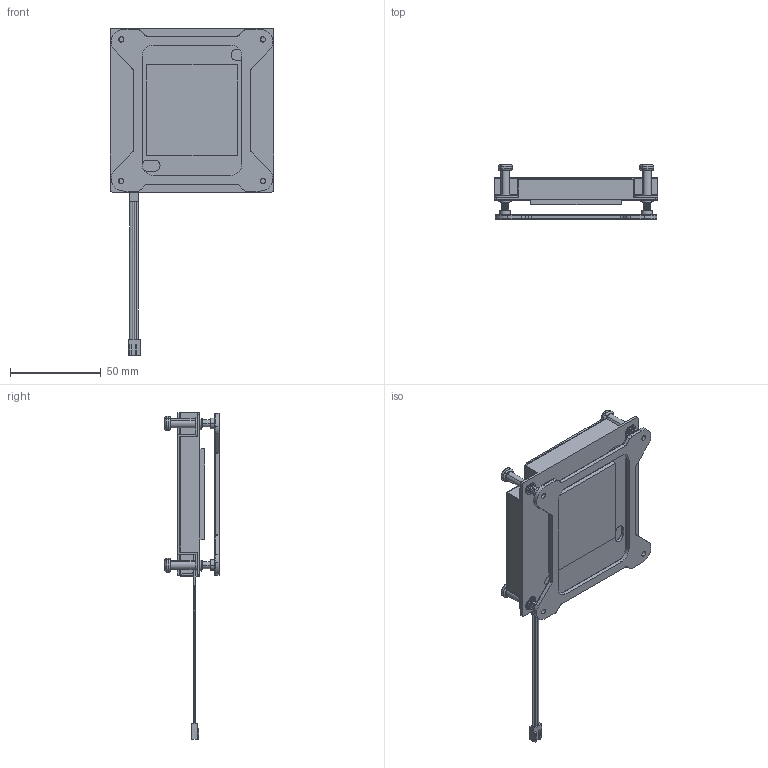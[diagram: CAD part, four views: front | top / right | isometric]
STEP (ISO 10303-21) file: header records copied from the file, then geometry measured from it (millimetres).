
FILE_DESCRIPTION((''),'2;1');
FILE_NAME('RGD3118-004_ME_ASM','2022-10-11T',('User'),(''),'PRO/ENGINEER BY PARAMETRIC TECHNOLOGY CORPORATION, 2017170','PRO/ENGINEER BY PARAMETRIC TECHNOLOGY CORPORATION, 2017170','');
FILE_SCHEMA(('CONFIG_CONTROL_DESIGN'));
Length unit declared in the file: millimetre
Products named in the file (22): 201706038-002-FANCOVER-MP_15_1_; SINK_BASE_1_1_4; RFQ__71070403010E__LGA1156_JAC7_ASM; JAS190C-1_2_1-1_1_1_4; E-RING_1_1_4; SCREW_ASSY_ASM_1_ASM_1_ASM_6_ASM; 4PIN_2543_CABLE__1_1_4; 4PIN_1_1_1_4; 4PIN_1_2_1_4; 4PIN_1_3_1_4; 4PIN_1_4_1_4; 4PIN_1_ASM_1_ASM_4_ASM; 1_1_1_4; RG3118A-A_ASM_1_ASM_1_ASM_1_ASM; 1_ASM_1_ASM_1_ASM; 850-BP-1700-5_1; ADHESIVE_1; MYLAR_1; 850-BP1700-5_ASM_1_ASM; RGD3118-004_ME_ASM_1_ASM; LABEL_RGE-ST002-1; RGD3118-004_ME_ASM
Assembly tree (24 placements, depth 6):
  RGD3118-004_ME_ASM
    RGD3118-004_ME_ASM_1_ASM
      1_ASM_1_ASM_1_ASM
        RG3118A-A_ASM_1_ASM_1_ASM_1_ASM
          RFQ__71070403010E__LGA1156_JAC7_ASM
            201706038-002-FANCOVER-MP_15_1_
            SINK_BASE_1_1_4
          SCREW_ASSY_ASM_1_ASM_1_ASM_6_ASM  x4
            JAS190C-1_2_1-1_1_1_4
            E-RING_1_1_4
          4PIN_2543_CABLE__1_1_4
          4PIN_1_ASM_1_ASM_4_ASM
            4PIN_1_1_1_4
            4PIN_1_2_1_4
            4PIN_1_3_1_4
            4PIN_1_4_1_4
          1_1_1_4
      850-BP1700-5_ASM_1_ASM
        850-BP-1700-5_1
        ADHESIVE_1
        MYLAR_1
    LABEL_RGE-ST002-1
Bounding box: 90 x 29.8 x 180 mm (x, y, z)
Volume: 99800.9 mm3; surface area: 51023.3 mm2
Topology: 20 solids, 23 shells, 1863 faces, 5183 edges, 3449 vertices
Faces by surface type: plane 1360, cylinder 363, extrusion 95, bspline 25, torus 16, cone 4
Entity records: 41174 total; most frequent: CARTESIAN_POINT 9525, ORIENTED_EDGE 5974, DIRECTION 5397, EDGE_CURVE 2987, VECTOR 2337, LINE 2242, VERTEX_POINT 1997, AXIS2_PLACEMENT_3D 1530
